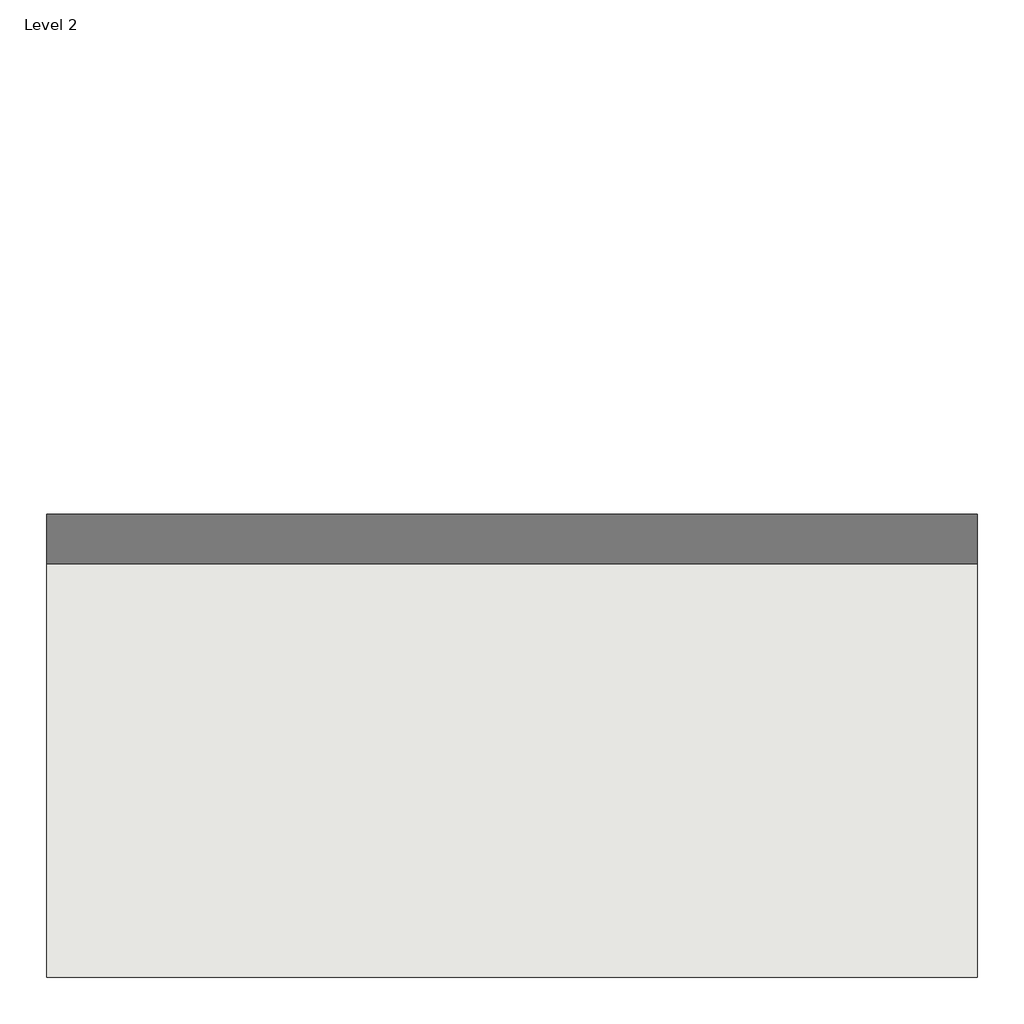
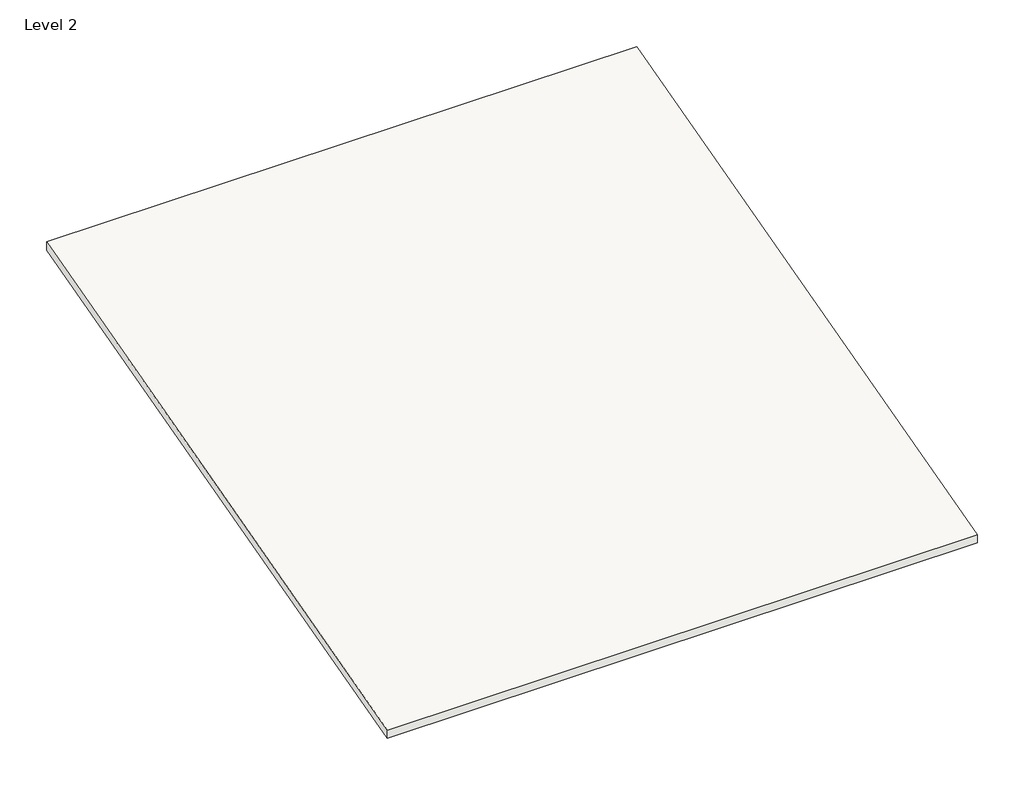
# One storey: 1 roof.
"""IFC4 building model written with IfcOpenShell, lengths in millimetres."""

from ifc_helpers import new_model, si_unit, frame, origin, place, context, project, spatial, polyline, outline, extrude, element, save

model = new_model("IFC4")

# Units and contexts
model_context = context("Model", 3, world=origin())
ifc_project = project(units=[si_unit("LENGTHUNIT", "METRE", prefix="MILLI")], contexts=[model_context])

# Site, building, storey
site = spatial("IfcSite", under=ifc_project)
building = spatial("IfcBuilding", under=site)
storey = spatial("IfcBuildingStorey", under=building, Name="Level 2", Elevation=3000.0)

# Roof
placement = place(None, origin())
element("IfcRoof", 1, ObjectType="Generic - 125mm", at=placement, inside=storey, context=model_context, shape_type="SweptSolid", body=[
    extrude(outline(polyline([(-3847.9541654, 3129.4095226), (5152.0458346, 5540.9522544), (5152.0458346, 5411.5427319), (-3847.9541654, 3000.0), (-3847.9541654, 3129.4095226)])), frame((-2897.6215702, 0.0, 0.0), z_axis=(1.0, 0.0, 0.0), x_axis=(0.0, 1.0, 0.0)), (0.0, 0.0, 1.0), 9000.0),
])

save(model, "model.ifc")
